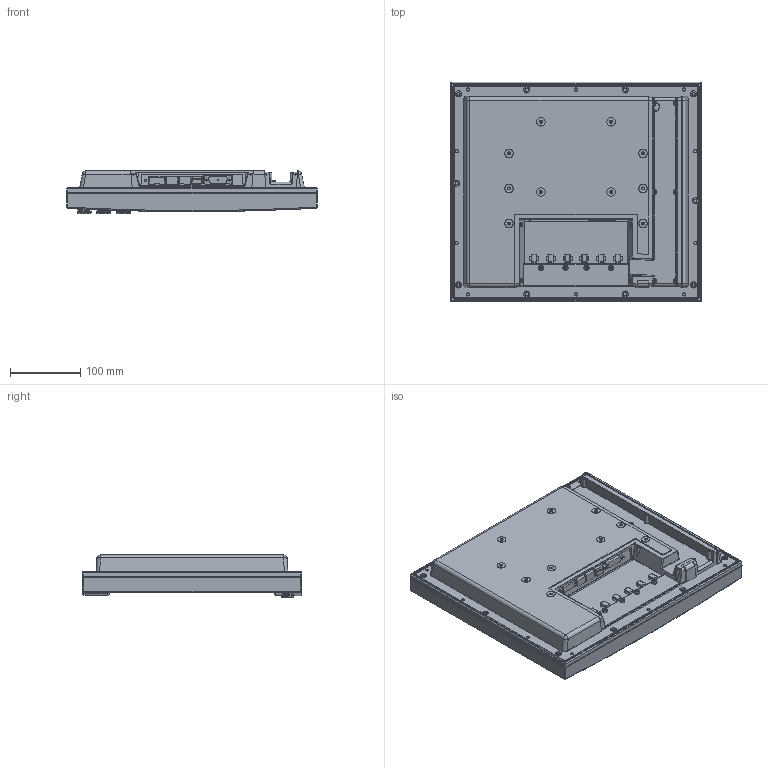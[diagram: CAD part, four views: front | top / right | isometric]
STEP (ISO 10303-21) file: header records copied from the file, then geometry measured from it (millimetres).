
FILE_DESCRIPTION (( 'STEP AP214' ), '1' );
FILE_NAME ('ETT1561 support.STEP', '2016-05-30T08:04:17', ( 'SIGMATEK GmbH & Co KG' ), ( 'SIGMATEK GmbH & Co KG' ), 'SwSTEP 2.0', 'SolidWorks 2015', '' );
FILE_SCHEMA (( 'AUTOMOTIVE_DESIGN' ));
Length unit declared in the file: millimetre
Products named in the file (8): Montageblech mit Elektronik support; DVI Platine 57900_22; Displayträgerplatte M5 15'''' AUO-G150xG01_mit Buzzer Ausnehmung; Touch_HANtouch_HT-1502AAA-0; Displayfront M5_support; ETT1561 support; Abdeckung USB 9_4_4 Griffmulde oben_mit Stiftdichtung; Rückwand M5_support
Assembly tree (9 placements, depth 3):
  ETT1561 support
    Displayfront M5_support
    Touch_HANtouch_HT-1502AAA-0
    Montageblech mit Elektronik support
      Displayträgerplatte M5 15'''' AUO-G150xG01_mit Buzzer Ausnehmung
      DVI Platine 57900_22
    Rückwand M5_support
    Abdeckung USB 9_4_4 Griffmulde oben_mit Stiftdichtung  x3
Bounding box: 358 x 313 x 61.44 mm (x, y, z)
Volume: 1178612.9 mm3; surface area: 868131.4 mm2
Topology: 8 solids, 8 shells, 2511 faces, 6259 edges, 3889 vertices
Faces by surface type: plane 988, cylinder 693, bspline 340, cone 264, torus 122, sphere 104
Entity records: 68323 total; most frequent: CARTESIAN_POINT 19318, ORIENTED_EDGE 10050, DIRECTION 9374, EDGE_CURVE 5025, AXIS2_PLACEMENT_3D 3317, VERTEX_POINT 3151, VECTOR 2740, LINE 2740
